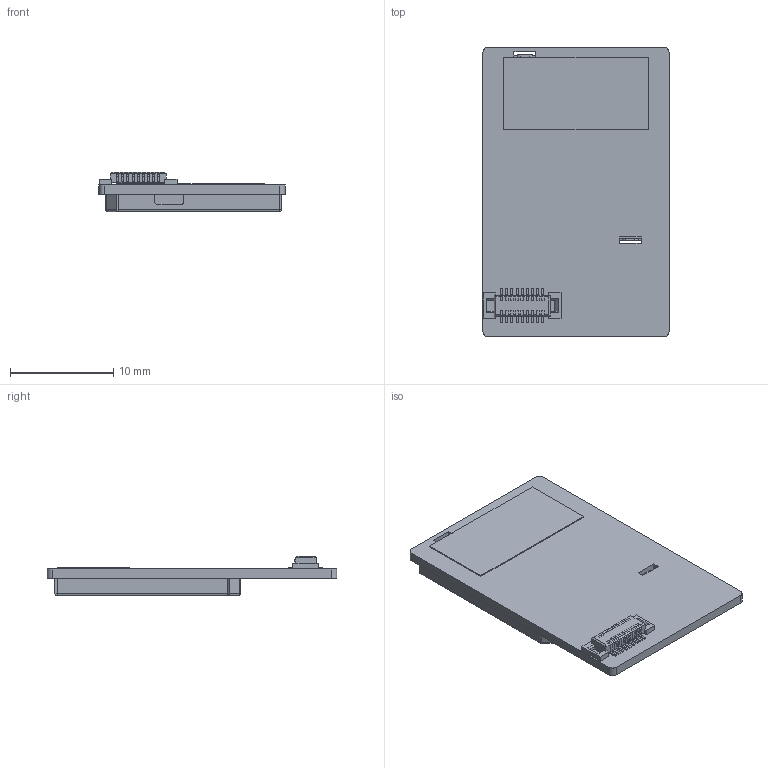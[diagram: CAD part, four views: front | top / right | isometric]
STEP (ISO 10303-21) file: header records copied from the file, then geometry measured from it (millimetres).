
FILE_DESCRIPTION((''),'2;1');
FILE_NAME('GTA02-MPB02_ASM','2008-06-30T',('GRA'),(''),'PRO/ENGINEER BY PARAMETRIC TECHNOLOGY CORPORATION, 2006170','PRO/ENGINEER BY PARAMETRIC TECHNOLOGY CORPORATION, 2006170','');
FILE_SCHEMA(('CONFIG_CONTROL_DESIGN'));
Length unit declared in the file: millimetre
Products named in the file (5): BTB-AXK6F18345_PRT; GTA02-MPB02_PRT; GTA02-MCS01_PRT; GTA02-MCD01_PRT; GTA02-MPB02_ASM
Assembly tree (4 placements, depth 2):
  GTA02-MPB02_ASM
    BTB-AXK6F18345_PRT
    GTA02-MPB02_PRT
    GTA02-MCS01_PRT
    GTA02-MCD01_PRT
Bounding box: 18 x 28 x 3.84 mm (x, y, z)
Volume: 552.7 mm3; surface area: 2164.3 mm2
Topology: 4 solids, 4 shells, 500 faces, 1330 edges, 872 vertices
Faces by surface type: plane 355, cylinder 145
Entity records: 15621 total; most frequent: CARTESIAN_POINT 2711, ORIENTED_EDGE 2660, DIRECTION 2638, EDGE_CURVE 1330, VECTOR 1040, LINE 1040, VERTEX_POINT 872, AXIS2_PLACEMENT_3D 799
